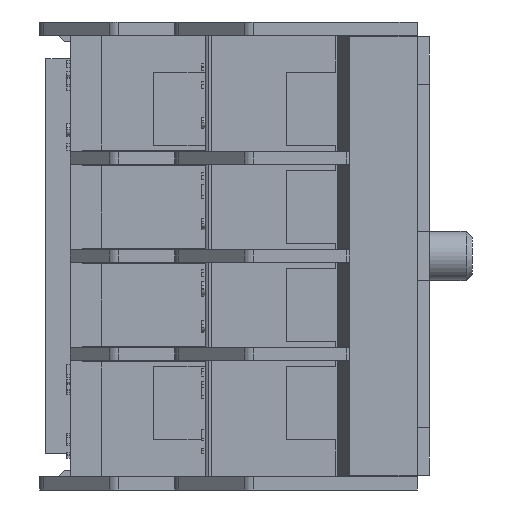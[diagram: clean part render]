
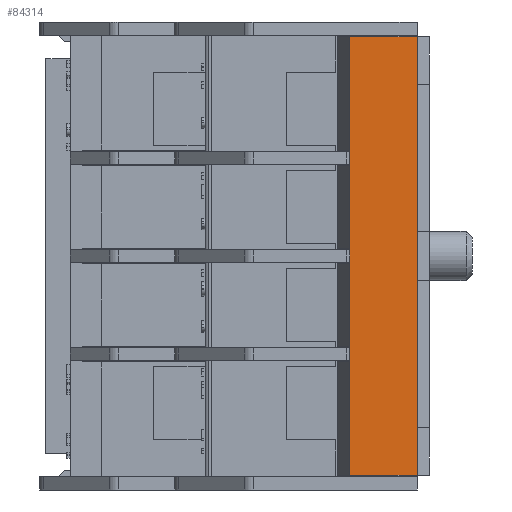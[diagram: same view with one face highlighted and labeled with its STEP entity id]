
A CAD part, left-side view. The second image highlights one B-rep face of the part: STEP entity #84314.
In plain terms, the highlighted planar face has unit normal (-1, 0, 0).
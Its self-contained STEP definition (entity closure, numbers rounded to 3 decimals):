
#2477 = DIRECTION ( 'NONE',  ( 0., 1., 0. ) ) ;
#2536 = CARTESIAN_POINT ( 'NONE',  ( -46., 0., 1.2 ) ) ;
#7242 = ORIENTED_EDGE ( 'NONE', *, *, #22171, .F. ) ;
#9121 = DIRECTION ( 'NONE',  ( 0., 1., 0. ) ) ;
#11101 = VECTOR ( 'NONE', #9121, 1000. ) ;
#13644 = DIRECTION ( 'NONE',  ( -1., 0., 0. ) ) ;
#14962 = VECTOR ( 'NONE', #62846, 1000. ) ;
#19456 = VERTEX_POINT ( 'NONE', #77344 ) ;
#19853 = PLANE ( 'NONE',  #22864 ) ;
#22171 = EDGE_CURVE ( 'NONE', #79785, #30936, #28515, .T. ) ;
#22864 = AXIS2_PLACEMENT_3D ( 'NONE', #52859, #13644, #59452 ) ;
#22922 = EDGE_CURVE ( 'NONE', #79785, #19456, #84648, .T. ) ;
#24180 = CARTESIAN_POINT ( 'NONE',  ( -46., 5.5, 37. ) ) ;
#27394 = VECTOR ( 'NONE', #2477, 1000. ) ;
#28515 = LINE ( 'NONE', #2536, #11101 ) ;
#30375 = DIRECTION ( 'NONE',  ( 0., 0., 1. ) ) ;
#30936 = VERTEX_POINT ( 'NONE', #31882 ) ;
#31882 = CARTESIAN_POINT ( 'NONE',  ( -46., 5.5, 1.2 ) ) ;
#36535 = CARTESIAN_POINT ( 'NONE',  ( -46., 0., 37. ) ) ;
#38792 = VERTEX_POINT ( 'NONE', #24180 ) ;
#43491 = EDGE_CURVE ( 'NONE', #30936, #38792, #49067, .T. ) ;
#49067 = LINE ( 'NONE', #68745, #81823 ) ;
#51618 = ORIENTED_EDGE ( 'NONE', *, *, #43491, .F. ) ;
#52336 = ORIENTED_EDGE ( 'NONE', *, *, #74776, .T. ) ;
#52859 = CARTESIAN_POINT ( 'NONE',  ( -46., 5.5, 37. ) ) ;
#56278 = CARTESIAN_POINT ( 'NONE',  ( -46., 0., 1.2 ) ) ;
#59452 = DIRECTION ( 'NONE',  ( 0., 0., -1. ) ) ;
#59701 = CARTESIAN_POINT ( 'NONE',  ( -46., 0., 1.2 ) ) ;
#61164 = ORIENTED_EDGE ( 'NONE', *, *, #22922, .T. ) ;
#61733 = FACE_OUTER_BOUND ( 'NONE', #76988, .T. ) ;
#62261 = LINE ( 'NONE', #36535, #27394 ) ;
#62846 = DIRECTION ( 'NONE',  ( 0., 0., 1. ) ) ;
#68745 = CARTESIAN_POINT ( 'NONE',  ( -46., 5.5, 1.2 ) ) ;
#74776 = EDGE_CURVE ( 'NONE', #19456, #38792, #62261, .T. ) ;
#76988 = EDGE_LOOP ( 'NONE', ( #51618, #7242, #61164, #52336 ) ) ;
#77344 = CARTESIAN_POINT ( 'NONE',  ( -46., 0., 37. ) ) ;
#79785 = VERTEX_POINT ( 'NONE', #59701 ) ;
#81823 = VECTOR ( 'NONE', #30375, 1000. ) ;
#84314 = ADVANCED_FACE ( 'NONE', ( #61733 ), #19853, .T. ) ;
#84648 = LINE ( 'NONE', #56278, #14962 ) ;
